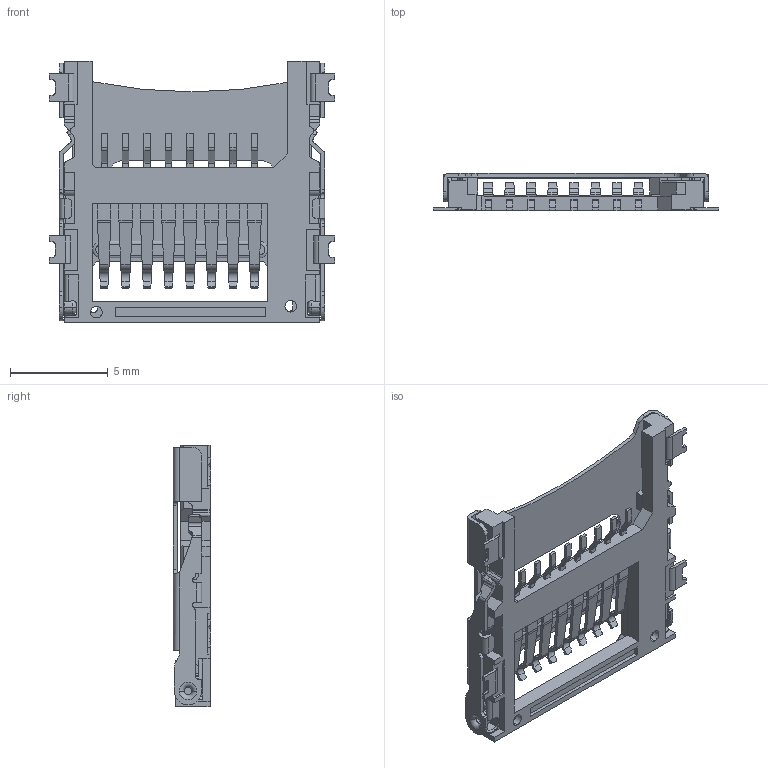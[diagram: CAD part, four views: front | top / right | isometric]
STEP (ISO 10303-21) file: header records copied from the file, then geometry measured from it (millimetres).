
FILE_DESCRIPTION((''),'2;1');
FILE_NAME('1060801GR204_T-FLA0001','2024-03-12T20:41:53',('Administrator'),(''),'CREO PARAMETRIC BY PTC INC, 2020053','CREO PARAMETRIC BY PTC INC, 2020053','');
FILE_SCHEMA(('AUTOMOTIVE_DESIGN { 1 0 10303 214 1 1 1 1 }'));
Length unit declared in the file: millimetre
Products named in the file (1): 1060801GR204_T-FLA0001
Bounding box: 14.6 x 1.91 x 13.4 mm (x, y, z)
Volume: 99 mm3; surface area: 662.5 mm2
Topology: 1 solids, 1 shells, 1077 faces, 2930 edges, 1883 vertices
Faces by surface type: plane 620, cylinder 231, extrusion 152, bspline 56, torus 18
Entity records: 36207 total; most frequent: CARTESIAN_POINT 9632, ORIENTED_EDGE 5860, DIRECTION 4838, EDGE_CURVE 2930, VECTOR 2210, LINE 2058, VERTEX_POINT 1883, AXIS2_PLACEMENT_3D 1314
